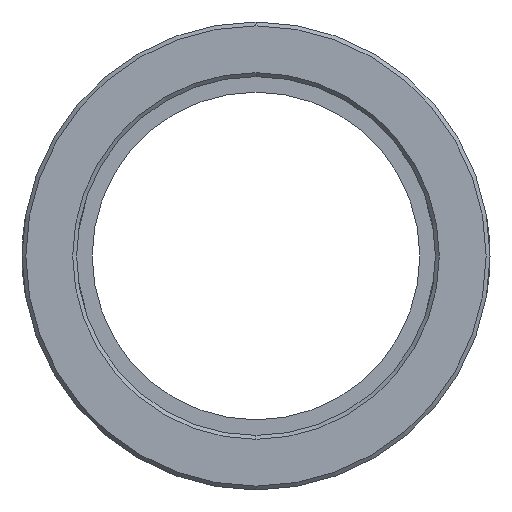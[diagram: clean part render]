
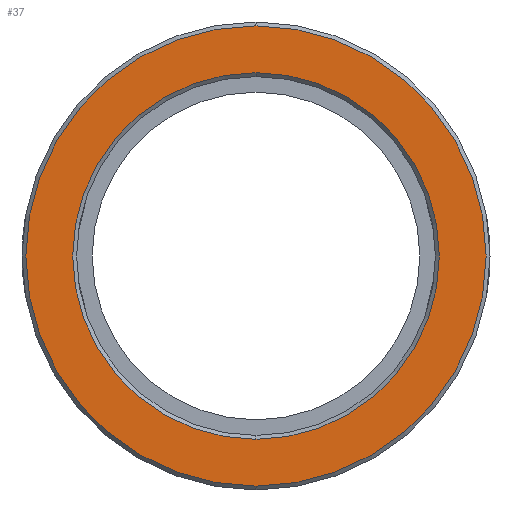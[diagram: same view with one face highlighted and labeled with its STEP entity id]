
A CAD part, left-side view. The second image highlights one B-rep face of the part: STEP entity #37.
In plain terms, the highlighted planar face has unit normal (-1, 0, 0).
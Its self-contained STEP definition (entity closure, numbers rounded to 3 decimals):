
#37 = ADVANCED_FACE ( 'NONE', ( #1080, #1024 ), #334, .F. ) ;
#107 = CARTESIAN_POINT ( 'NONE',  ( 0., 0., 0. ) ) ;
#118 = CIRCLE ( 'NONE', #470, 29.5 ) ;
#154 = DIRECTION ( 'NONE',  ( 1., 0., 0. ) ) ;
#188 = EDGE_LOOP ( 'NONE', ( #529, #621 ) ) ;
#203 = CARTESIAN_POINT ( 'NONE',  ( 0., 23., 0. ) ) ;
#213 = VERTEX_POINT ( 'NONE', #1279 ) ;
#273 = DIRECTION ( 'NONE',  ( 0., 0., -1. ) ) ;
#284 = DIRECTION ( 'NONE',  ( 1., 0., 0. ) ) ;
#334 = PLANE ( 'NONE',  #1210 ) ;
#344 = EDGE_CURVE ( 'NONE', #1034, #1409, #709, .T. ) ;
#368 = EDGE_CURVE ( 'NONE', #1193, #213, #648, .T. ) ;
#426 = CARTESIAN_POINT ( 'NONE',  ( 0., 0., 0. ) ) ;
#430 = DIRECTION ( 'NONE',  ( 1., 0., 0. ) ) ;
#435 = DIRECTION ( 'NONE',  ( 0., 0., -1. ) ) ;
#470 = AXIS2_PLACEMENT_3D ( 'NONE', #1336, #1322, #1229 ) ;
#523 = EDGE_CURVE ( 'NONE', #213, #1193, #118, .T. ) ;
#529 = ORIENTED_EDGE ( 'NONE', *, *, #1097, .T. ) ;
#531 = CIRCLE ( 'NONE', #1395, 23.5 ) ;
#564 = DIRECTION ( 'NONE',  ( -1., 0., 0. ) ) ;
#621 = ORIENTED_EDGE ( 'NONE', *, *, #344, .T. ) ;
#628 = CARTESIAN_POINT ( 'NONE',  ( 0., 0., 0. ) ) ;
#648 = CIRCLE ( 'NONE', #873, 29.5 ) ;
#709 = CIRCLE ( 'NONE', #839, 23.5 ) ;
#839 = AXIS2_PLACEMENT_3D ( 'NONE', #107, #154, #1181 ) ;
#849 = CARTESIAN_POINT ( 'NONE',  ( 0., 0., -29.5 ) ) ;
#873 = AXIS2_PLACEMENT_3D ( 'NONE', #628, #564, #963 ) ;
#963 = DIRECTION ( 'NONE',  ( 0., 0., -1. ) ) ;
#998 = ORIENTED_EDGE ( 'NONE', *, *, #368, .T. ) ;
#1024 = FACE_OUTER_BOUND ( 'NONE', #1038, .T. ) ;
#1034 = VERTEX_POINT ( 'NONE', #1312 ) ;
#1038 = EDGE_LOOP ( 'NONE', ( #998, #1408 ) ) ;
#1080 = FACE_BOUND ( 'NONE', #188, .T. ) ;
#1097 = EDGE_CURVE ( 'NONE', #1409, #1034, #531, .T. ) ;
#1181 = DIRECTION ( 'NONE',  ( 0., 0., -1. ) ) ;
#1193 = VERTEX_POINT ( 'NONE', #849 ) ;
#1210 = AXIS2_PLACEMENT_3D ( 'NONE', #203, #284, #273 ) ;
#1211 = CARTESIAN_POINT ( 'NONE',  ( 0., 0., 23.5 ) ) ;
#1229 = DIRECTION ( 'NONE',  ( 0., 0., -1. ) ) ;
#1279 = CARTESIAN_POINT ( 'NONE',  ( 0., 0., 29.5 ) ) ;
#1312 = CARTESIAN_POINT ( 'NONE',  ( 0., 0., -23.5 ) ) ;
#1322 = DIRECTION ( 'NONE',  ( -1., 0., 0. ) ) ;
#1336 = CARTESIAN_POINT ( 'NONE',  ( 0., 0., 0. ) ) ;
#1395 = AXIS2_PLACEMENT_3D ( 'NONE', #426, #430, #435 ) ;
#1408 = ORIENTED_EDGE ( 'NONE', *, *, #523, .T. ) ;
#1409 = VERTEX_POINT ( 'NONE', #1211 ) ;
